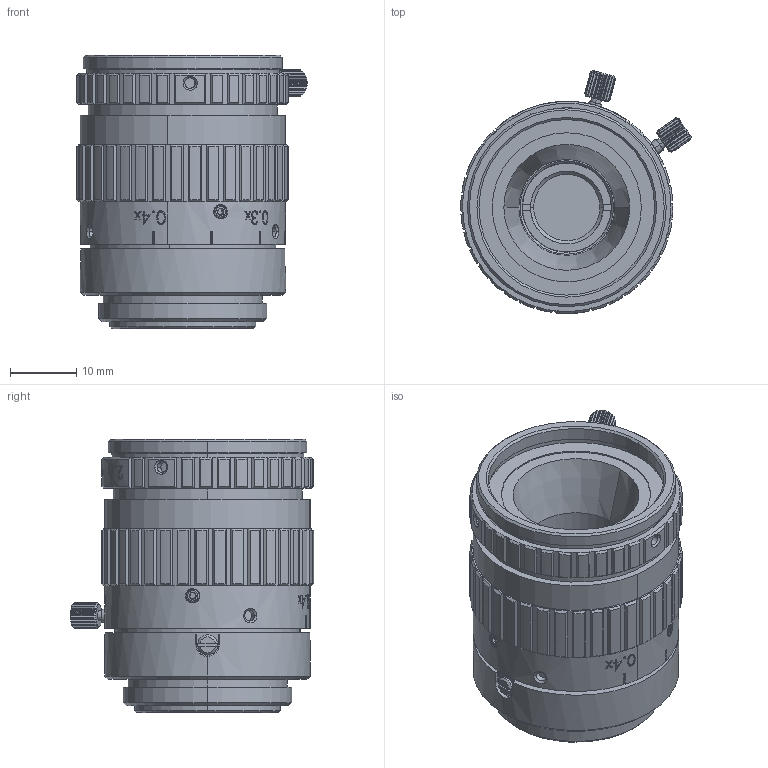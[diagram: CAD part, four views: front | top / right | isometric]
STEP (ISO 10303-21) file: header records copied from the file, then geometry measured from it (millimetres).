
FILE_DESCRIPTION (( 'STEP AP203' ), '1' );
FILE_NAME ('ML-MC25HR_A20964A0100101A-002.STEP', '2014-02-03T07:35:43', ( '' ), ( '' ), 'SwSTEP 2.0', 'SolidWorks 2011', '' );
FILE_SCHEMA (( 'CONFIG_CONTROL_DESIGN' ));
Length unit declared in the file: millimetre
Products named in the file (5): ML-MC25HR_A20964A0100101A-002; ML-MC25HR_A20964A0100101A-002_D_Default; ML-MC25HR_A20964A0100101A-002_C_Default; ML-MC25HR_A20964A0100101A-002_B_Default; ML-MC25HR_A20964A0100101A-002_A_Default
Assembly tree (4 placements, depth 2):
  ML-MC25HR_A20964A0100101A-002
    ML-MC25HR_A20964A0100101A-002_B_Default
    ML-MC25HR_A20964A0100101A-002_D_Default
    ML-MC25HR_A20964A0100101A-002_A_Default
    ML-MC25HR_A20964A0100101A-002_C_Default
Bounding box: 34.77 x 36.7 x 41.26 mm (x, y, z)
Volume: 23296.6 mm3; surface area: 16480.5 mm2
Topology: 4 solids, 4 shells, 1261 faces, 3449 edges, 2263 vertices
Faces by surface type: plane 468, cylinder 386, cone 216, bspline 178, torus 13
Entity records: 58802 total; most frequent: CARTESIAN_POINT 28833, ORIENTED_EDGE 6890, DIRECTION 5004, EDGE_CURVE 3445, VERTEX_POINT 2263, AXIS2_PLACEMENT_3D 1835, B_SPLINE_CURVE_WITH_KNOTS 1366, EDGE_LOOP 1358
